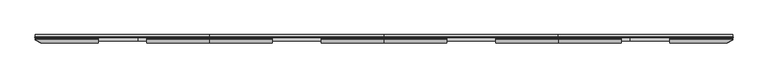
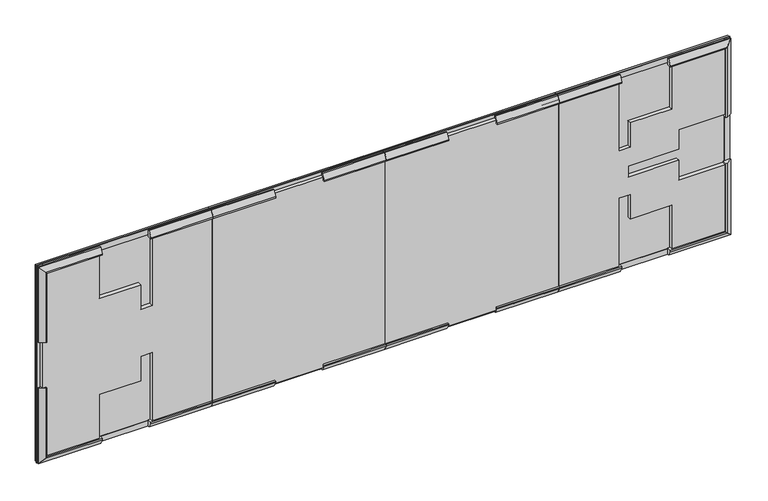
"""IFC4 building model written with IfcOpenShell, lengths in millimetres: proxy geometry, IMPRESS^TABLE 6_4 PC TOP PWR DRAWERS-TOP PARTS SOLID."""

import ifcopenshell
import ifcopenshell.guid

model = None  # the IFC model being written
_history = None  # IfcOwnerHistory: only IFC2X3 demands one
_inside = {}  # id of a spatial element -> (the spatial element, [elements in it])
_under = {}  # id of a project, library or spatial element -> (it, [spatial elements below it])
_declared = {}  # id of a project -> (the project, [libraries it declares])
_typed = {}  # id of a type object -> (the type object, [elements of that type])
_made_of = {}  # id of a material, layer set ... -> (it, [elements and type objects made of it])


def new_model(schema):
    """Start an empty IFC model of exactly this schema.

    Asked for "IFC4X3", IfcOpenShell would pick the latest addendum, in which some entities
    have other attributes; the version numbers below select the first issue.
    IFC2X3 requires an IfcOwnerHistory on every rooted entity: one is made here for all.
    """
    global model, _history
    if schema == "IFC4X3":
        model = ifcopenshell.file(schema_version=(4, 3, 0, 0))
    else:
        model = ifcopenshell.file(schema=schema)
    _inside.clear()
    _under.clear()
    _declared.clear()
    _typed.clear()
    _made_of.clear()
    _history = None
    if model.schema == "IFC2X3":
        org = make("IfcOrganization", Name="unknown")
        user = make(
            "IfcPersonAndOrganization",
            ThePerson=make("IfcPerson", FamilyName="unknown"),
            TheOrganization=org,
        )
        app = make(
            "IfcApplication",
            ApplicationDeveloper=org,
            Version="unknown",
            ApplicationFullName="unknown",
            ApplicationIdentifier="unknown",
        )
        _history = make(
            "IfcOwnerHistory",
            OwningUser=user,
            OwningApplication=app,
            ChangeAction="ADDED",
            CreationDate=0,
        )
    return model


def make(cls, **values):
    """One entity of the class cls with the attributes given. An attribute that is None is left unset."""
    return model.create_entity(
        cls, **{name: value for name, value in values.items() if value is not None}
    )


def rooted(cls, **values):
    """An entity with a GlobalId (a new one), such as an element, a storey or a relation."""
    return make(cls, GlobalId=ifcopenshell.guid.new(), OwnerHistory=_history, **values)


def si_unit(unit_type, name, prefix=None):
    """IfcSIUnit, for example si_unit("LENGTHUNIT", "METRE", prefix="MILLI")."""
    return make("IfcSIUnit", UnitType=unit_type, Prefix=prefix, Name=name)


def assignment(units):
    """IfcUnitAssignment: the units of a project."""
    return None if units is None else make("IfcUnitAssignment", Units=units)


def point(xyz):
    """IfcCartesianPoint."""
    return None if xyz is None else make("IfcCartesianPoint", Coordinates=xyz)


def direction(xyz):
    """IfcDirection."""
    return None if xyz is None else make("IfcDirection", DirectionRatios=xyz)


def frame(location, z_axis=None, x_axis=None):
    """IfcAxis2Placement3D, a coordinate frame: its origin and axes. An axis left out is left unset."""
    return make(
        "IfcAxis2Placement3D",
        Location=point(location),
        Axis=direction(z_axis),
        RefDirection=direction(x_axis),
    )


def origin():
    """The frame at (0, 0, 0) with its axes left unset."""
    return frame((0.0, 0.0, 0.0))


def place(relative_to, where):
    """IfcLocalPlacement: puts the frame where relative to a parent placement (None: the world)."""
    return make(
        "IfcLocalPlacement", PlacementRelTo=relative_to, RelativePlacement=where
    )


def context(
    kind, dimensions, precision=None, world=None, true_north=None, identifier=None
):
    """IfcGeometricRepresentationContext, for example the 3D "Model" context."""
    return make(
        "IfcGeometricRepresentationContext",
        ContextIdentifier=identifier,
        ContextType=kind,
        CoordinateSpaceDimension=dimensions,
        Precision=precision,
        WorldCoordinateSystem=world,
        TrueNorth=true_north,
    )


def project(units=None, contexts=None):
    """IfcProject with its units and contexts."""
    return rooted(
        "IfcProject",
        Name="project",
        RepresentationContexts=contexts,
        UnitsInContext=assignment(units),
    )


def spatial(cls, under=None, at=None, **own):
    """A site, building, storey or space (cls), placed at a placement, below another one or the project."""
    s = rooted(cls, ObjectPlacement=at, **own)
    if under is not None:
        _under.setdefault(under.id(), (under, []))[1].append(s)
    return s


def polyline(points):
    """IfcPolyline through the points."""
    return make("IfcPolyline", Points=[point(p) for p in points])


def outline(outer, holes=None, kind="AREA"):
    """IfcArbitraryClosedProfileDef: a profile drawn as a closed curve; with holes, ...WithVoids."""
    if holes is None:
        return make("IfcArbitraryClosedProfileDef", ProfileType=kind, OuterCurve=outer)
    return make(
        "IfcArbitraryProfileDefWithVoids",
        ProfileType=kind,
        OuterCurve=outer,
        InnerCurves=holes,
    )


def extrude(swept, where, along, depth):
    """IfcExtrudedAreaSolid: the profile swept, set in the frame where, extruded along a direction by depth."""
    return make(
        "IfcExtrudedAreaSolid",
        SweptArea=swept,
        Position=where,
        ExtrudedDirection=direction(along),
        Depth=depth,
    )


def faces_of(points, faces, orient=None, outer=None):
    """IfcFace entities. A face is a list of loops; a loop is a list of indices into points, from 0.

    orient and outer hold one flag for each loop. By default every Orientation is true, the
    first loop of a face is its IfcFaceOuterBound and the others are IfcFaceBound.
    """
    made = []
    for i, loops in enumerate(faces):
        bounds = []
        for j, loop in enumerate(loops):
            is_outer = j == 0 if outer is None else outer[i][j]
            bounds.append(
                make(
                    "IfcFaceOuterBound" if is_outer else "IfcFaceBound",
                    Bound=make("IfcPolyLoop", Polygon=[points[k] for k in loop]),
                    Orientation=True if orient is None else orient[i][j],
                )
            )
        made.append(make("IfcFace", Bounds=bounds))
    return made


def faceted_brep(points, faces, orient=None, outer=None, voids=None):
    """IfcFacetedBrep: a solid bounded by flat faces; with voids (closed shells), ...WithVoids."""
    shared = [point(p) for p in points]
    hull = make("IfcClosedShell", CfsFaces=faces_of(shared, faces, orient, outer))
    if voids is None:
        return make("IfcFacetedBrep", Outer=hull)
    return make(
        "IfcFacetedBrepWithVoids",
        Outer=hull,
        Voids=[
            make(cls, CfsFaces=faces_of(shared, fs, o, b)) for cls, fs, o, b in voids
        ],
    )


def shape(context_of_items, identifier, shape_type, items):
    """IfcShapeRepresentation: the items that make up one representation, for example the "Body"."""
    return make(
        "IfcShapeRepresentation",
        ContextOfItems=context_of_items,
        RepresentationIdentifier=identifier,
        RepresentationType=shape_type,
        Items=items,
    )


def source(mapping_origin, context_of_items, identifier, shape_type, items):
    """IfcRepresentationMap: a shape defined once, which mapped items show again and again."""
    return make(
        "IfcRepresentationMap",
        MappingOrigin=mapping_origin,
        MappedRepresentation=shape(context_of_items, identifier, shape_type, items),
    )


def transform(
    local_origin,
    x_axis=None,
    y_axis=None,
    z_axis=None,
    scale=None,
    scale2=None,
    scale3=None,
    uniform=True,
):
    """IfcCartesianTransformationOperator3D, or its non-uniform kind. x_axis, y_axis, z_axis: its Axis1, 2, 3."""
    if uniform:
        return make(
            "IfcCartesianTransformationOperator3D",
            Axis1=direction(x_axis),
            Axis2=direction(y_axis),
            LocalOrigin=point(local_origin),
            Scale=scale,
            Axis3=direction(z_axis),
        )
    return make(
        "IfcCartesianTransformationOperator3DnonUniform",
        Axis1=direction(x_axis),
        Axis2=direction(y_axis),
        LocalOrigin=point(local_origin),
        Scale=scale,
        Axis3=direction(z_axis),
        Scale2=scale2,
        Scale3=scale3,
    )


def mapped(mapping_source, mapping_target):
    """IfcMappedItem: shows the shape of a source again, moved by a transform."""
    return make(
        "IfcMappedItem", MappingSource=mapping_source, MappingTarget=mapping_target
    )


def made_of(thing, what):
    """Note that an element or type object is made of a material, layer set ...; save() writes the relation."""
    if what is not None:
        _made_of.setdefault(what.id(), (what, []))[1].append(thing)
    return thing


def element(
    cls,
    number,
    at=None,
    inside=None,
    cuts=None,
    type_object=None,
    material=None,
    context=None,
    identifier="Body",
    shape_type=None,
    held_by="IfcProductDefinitionShape",
    body=None,
    shapes=None,
    **own,
):
    """One element of the class cls, such as IfcWall. Its Tag is "e" and its number.

    at: its placement. inside: the storey or other place that contains it. cuts: it is an
    opening in that element (IfcRelVoidsElement). A single representation is given by context,
    identifier, shape_type and body (its items); several are given by shapes. held_by: the class
    of the entity that holds the representations. save() writes the other relations.
    """
    e = rooted(cls, Tag="e%d" % number, ObjectPlacement=at, **own)
    if body is not None:
        shapes = [shape(context, identifier, shape_type, body)]
    if shapes is not None:
        e.Representation = make(held_by, Representations=shapes)
    if inside is not None:
        _inside.setdefault(inside.id(), (inside, []))[1].append(e)
    if cuts is not None:
        rooted(
            "IfcRelVoidsElement", RelatingBuildingElement=cuts, RelatedOpeningElement=e
        )
    if type_object is not None:
        _typed.setdefault(type_object.id(), (type_object, []))[1].append(e)
    return made_of(e, material)


def aggregate(whole, parts):
    """IfcRelAggregates: a whole, such as a stair, and the parts it consists of."""
    return rooted("IfcRelAggregates", RelatingObject=whole, RelatedObjects=parts)


def save(model, path):
    """Write the relations noted so far, then the file.

    IfcRelAggregates (storeys below a building ...), IfcRelContainedInSpatialStructure (elements
    in a storey), IfcRelDefinesByType, IfcRelAssociatesMaterial and IfcRelDeclares: one each for
    every whole, place, type object, material and project.
    """
    for whole, parts in _under.values():
        aggregate(whole, parts)
    for where, things in _inside.values():
        rooted(
            "IfcRelContainedInSpatialStructure",
            RelatedElements=things,
            RelatingStructure=where,
        )
    for kind, things in _typed.values():
        rooted("IfcRelDefinesByType", RelatedObjects=things, RelatingType=kind)
    for what, things in _made_of.values():
        rooted("IfcRelAssociatesMaterial", RelatedObjects=things, RelatingMaterial=what)
    for by, libraries in _declared.values():
        rooted("IfcRelDeclares", RelatingContext=by, RelatedDefinitions=libraries)
    model.write(path)


def generic_models_7e3621ef(model_context):
    return source(origin(), model_context, "Body", "SolidModel", [
        extrude(outline(polyline([(3048.0, -38.1), (3048.0, 0.0), (4572.0, 0.0), (4572.0, -38.1), (3048.0, -38.1)])), frame((0.0, 0.0, -1800.225), z_axis=(0.0, 0.0, 1.0), x_axis=(1.0, 0.0, 0.0)), (0.0, 0.0, 1.0), 1771.65),
        extrude(outline(polyline([(4572.0, 0.0), (6061.075, 0.0), (6061.075, -6.35), (4572.0, -6.35), (4572.0, 0.0)])), frame((0.0, 0.0, -47.625), z_axis=(0.0, 0.0, 1.0), x_axis=(1.0, 0.0, 0.0)), (0.0, 0.0, 1.0), 50.8),
        extrude(outline(polyline([(-25.4, -1828.8), (-53.975, -1779.3066482), (-53.975, -1768.475), (-15.875, -1768.475), (-15.875, -1828.8), (-25.4, -1828.8)])), frame((1524.0, 0.0, 0.0), z_axis=(1.0, 0.0, 0.0), x_axis=(0.0, 1.0, 0.0)), (0.0, 0.0, 1.0), 548.48125),
        extrude(outline(polyline([(-25.4, -1828.8), (-53.975, -1779.3066482), (-53.975, -1768.475), (-15.875, -1768.475), (-15.875, -1828.8), (-25.4, -1828.8)])), frame((2499.51875, 0.0, 0.0), z_axis=(1.0, 0.0, 0.0), x_axis=(0.0, 1.0, 0.0)), (0.0, 0.0, 1.0), 548.48125),
        extrude(outline(polyline([(-53.975, -49.4933518), (-25.4, 0.0), (-15.875, 0.0), (-15.875, -60.325), (-53.975, -60.325), (-53.975, -49.4933518)])), frame((4023.51875, 0.0, 0.0), z_axis=(1.0, 0.0, 0.0), x_axis=(0.0, 1.0, 0.0)), (0.0, 0.0, 1.0), 548.48125),
        extrude(outline(polyline([(-53.975, -49.4933518), (-25.4, 0.0), (-15.875, 0.0), (-15.875, -60.325), (-53.975, -60.325), (-53.975, -49.4933518)])), frame((3048.0, 0.0, 0.0), z_axis=(1.0, 0.0, 0.0), x_axis=(0.0, 1.0, 0.0)), (0.0, 0.0, 1.0), 548.48125),
        extrude(outline(polyline([(6096.0, 0.0), (4572.0, 0.0), (4572.0, 19.05), (6096.0, 19.05), (6096.0, 0.0)])), frame((0.0, 0.0, -1828.8), z_axis=(0.0, 0.0, 1.0), x_axis=(1.0, 0.0, 0.0)), (0.0, 0.0, 1.0), 1828.8),
        extrude(outline(polyline([(47.625, 0.0), (47.625, -6.35), (-3.175, -6.35), (-3.175, 0.0), (47.625, 0.0)])), frame((0.0, 0.0, -1831.975), z_axis=(0.0, 0.0, 1.0), x_axis=(1.0, 0.0, 0.0)), (0.0, 0.0, 1.0), 1835.15),
        extrude(outline(polyline([(-25.4, -1828.8), (-53.975, -1779.3066482), (-53.975, -1768.475), (-15.875, -1768.475), (-15.875, -1828.8), (-25.4, -1828.8)])), frame((3048.0, 0.0, 0.0), z_axis=(1.0, 0.0, 0.0), x_axis=(0.0, 1.0, 0.0)), (0.0, 0.0, 1.0), 548.48125),
        extrude(outline(polyline([(-25.4, -1828.8), (-53.975, -1779.3066482), (-53.975, -1768.475), (-15.875, -1768.475), (-15.875, -1828.8), (-25.4, -1828.8)])), frame((4023.51875, 0.0, 0.0), z_axis=(1.0, 0.0, 0.0), x_axis=(0.0, 1.0, 0.0)), (0.0, 0.0, 1.0), 548.48125),
        extrude(outline(polyline([(4572.0, 0.0), (6061.075, 0.0), (6061.075, -6.35), (4572.0, -6.35), (4572.0, 0.0)])), frame((0.0, 0.0, -1831.975), z_axis=(0.0, 0.0, 1.0), x_axis=(1.0, 0.0, 0.0)), (0.0, 0.0, 1.0), 50.8),
        extrude(outline(polyline([(1524.0, 0.0), (3048.0, 0.0), (3048.0, -38.1), (1524.0, -38.1), (1524.0, 0.0)])), frame((0.0, 0.0, -1800.225), z_axis=(0.0, 0.0, 1.0), x_axis=(1.0, 0.0, 0.0)), (0.0, 0.0, 1.0), 1771.65),
        faceted_brep([(49.4933518, -53.975, -700.88125), (0.0, -25.4, -700.88125), (0.0, -15.875, -700.88125), (60.325, -15.875, -700.88125), (60.325, -53.975, -700.88125), (49.4933518, -53.975, -49.4933518), (0.0, -25.4, 0.0), (60.325, -53.975, -60.325), (60.325, -15.875, -60.325), (0.0, -15.875, 0.0)], [[[0, 1, 2, 3, 4]], [[1, 0, 5, 6]], [[0, 4, 7, 5]], [[3, 8, 7, 4]], [[2, 1, 6, 9]], [[6, 5, 7, 8, 9]], [[3, 2, 9, 8]]]),
        faceted_brep([(49.4933518, -53.975, -1127.91875), (0.0, -25.4, -1127.91875), (0.0, -25.4, -1828.8), (49.4933518, -53.975, -1779.3066482), (60.325, -53.975, -1127.91875), (60.325, -53.975, -1768.475), (60.325, -15.875, -1768.475), (60.325, -15.875, -1127.91875), (0.0, -15.875, -1127.91875), (0.0, -15.875, -1828.8)], [[[0, 1, 2, 3]], [[4, 0, 3, 5]], [[4, 5, 6, 7]], [[1, 8, 9, 2]], [[8, 7, 6, 9]], [[3, 2, 9, 6, 5]], [[1, 0, 4, 7, 8]]]),
        extrude(outline(polyline([(34.925, 0.0), (1524.0, 0.0), (1524.0, -6.35), (34.925, -6.35), (34.925, 0.0)])), frame((0.0, 0.0, -1831.975), z_axis=(0.0, 0.0, 1.0), x_axis=(1.0, 0.0, 0.0)), (0.0, 0.0, 1.0), 50.8),
        extrude(outline(polyline([(3048.0, 0.0), (4572.0, 0.0), (4572.0, -6.35), (3048.0, -6.35), (3048.0, 0.0)])), frame((0.0, 0.0, -1831.975), z_axis=(0.0, 0.0, 1.0), x_axis=(1.0, 0.0, 0.0)), (0.0, 0.0, 1.0), 50.8),
        faceted_brep([(28.575, 0.0, -28.575), (1524.0, 0.0, -28.575), (1524.0, 0.0, -1781.175), (528.6375, 0.0, -1781.175), (528.6375, 0.0, -1800.225), (28.575, 0.0, -1800.225), (995.3625, -3.175, -28.575), (995.3625, -38.1, -28.575), (1524.0, -38.1, -28.575), (28.575, -38.1, -28.575), (528.6375, -38.1, -28.575), (528.6375, -3.175, -28.575), (528.6375, -38.1, -1800.225), (28.575, -38.1, -1800.225), (528.6375, -38.1, -1362.075), (893.7625, -38.1, -1362.075), (893.7625, -38.1, -1133.475), (995.3625, -38.1, -1133.475), (995.3625, -38.1, -1800.225), (1524.0, -38.1, -1800.225), (995.3625, -38.1, -695.325), (893.7625, -38.1, -695.325), (893.7625, -38.1, -466.725), (528.6375, -38.1, -466.725), (893.7625, -3.175, -1133.475), (995.3625, -3.175, -1133.475), (893.7625, -3.175, -1362.075), (893.7625, -3.175, -695.325), (893.7625, -3.175, -466.725), (995.3625, -3.175, -695.325), (528.6375, -3.175, -466.725), (528.6375, -3.175, -1781.175), (995.3625, -3.175, -1781.175), (528.6375, -3.175, -1362.075), (1524.0, -6.35, -1800.225), (1524.0, -6.35, -1781.175), (995.3625, -6.35, -1781.175), (995.3625, -6.35, -1800.225)], [[[0, 1, 2, 3, 4, 5]], [[6, 7, 8, 1, 0, 9, 10, 11]], [[4, 12, 13, 5]], [[13, 9, 0, 5]], [[9, 13, 12, 14, 15, 16, 17, 18, 19, 8, 7, 20, 21, 22, 23, 10]], [[24, 25, 17, 16]], [[26, 24, 16, 15]], [[27, 28, 22, 21]], [[29, 27, 21, 20]], [[22, 28, 30, 23]], [[11, 30, 28, 27, 29, 6]], [[31, 32, 25, 24, 26, 33]], [[1, 8, 19, 34, 35, 2]], [[2, 35, 36, 32, 31, 3]], [[18, 37, 34, 19]], [[37, 36, 35, 34]], [[26, 15, 14, 33]], [[18, 17, 25, 32, 36, 37]], [[14, 12, 4, 3, 31, 33]], [[20, 7, 6, 29]], [[10, 23, 30, 11]]]),
        faceted_brep([(5547.51875, -53.975, -49.4933518), (5547.51875, -25.4, 0.0), (5547.51875, -15.875, 0.0), (5547.51875, -15.875, -60.325), (5547.51875, -53.975, -60.325), (6096.0, -25.4, 0.0), (6096.0, -15.875, 0.0), (6046.5066482, -53.975, -49.4933518), (6035.675, -53.975, -60.325), (6035.675, -15.875, -60.325)], [[[0, 1, 2, 3, 4]], [[2, 1, 5, 6]], [[1, 0, 7, 5]], [[0, 4, 8, 7]], [[3, 9, 8, 4]], [[5, 7, 8, 9, 6]], [[3, 2, 6, 9]]]),
        extrude(outline(polyline([(-53.975, -49.4933518), (-25.4, 0.0), (-15.875, 0.0), (-15.875, -60.325), (-53.975, -60.325), (-53.975, -49.4933518)])), frame((4572.0, 0.0, 0.0), z_axis=(1.0, 0.0, 0.0), x_axis=(0.0, 1.0, 0.0)), (0.0, 0.0, 1.0), 548.48125),
        extrude(outline(polyline([(3048.0, 0.0), (4572.0, 0.0), (4572.0, -6.35), (3048.0, -6.35), (3048.0, 0.0)])), frame((0.0, 0.0, -47.625), z_axis=(0.0, 0.0, 1.0), x_axis=(1.0, 0.0, 0.0)), (0.0, 0.0, 1.0), 50.8),
        faceted_brep([(6046.5066482, -53.975, -1127.91875), (6096.0, -25.4, -1127.91875), (6096.0, -15.875, -1127.91875), (6035.675, -15.875, -1127.91875), (6035.675, -53.975, -1127.91875), (6035.675, -15.875, -1768.475), (6035.675, -53.975, -1768.475), (6096.0, -15.875, -1828.8), (6046.5066482, -53.975, -1779.3066482), (6096.0, -25.4, -1828.8)], [[[0, 1, 2, 3, 4]], [[3, 5, 6, 4]], [[3, 2, 7, 5]], [[0, 4, 6, 8]], [[2, 1, 9, 7]], [[1, 0, 8, 9]], [[9, 8, 6, 5, 7]]]),
        faceted_brep([(6035.675, -53.975, -700.88125), (6035.675, -53.975, -60.325), (6035.675, -15.875, -60.325), (6035.675, -15.875, -700.88125), (6096.0, -15.875, -700.88125), (6096.0, -15.875, 0.0), (6046.5066482, -53.975, -700.88125), (6046.5066482, -53.975, -49.4933518), (6096.0, -25.4, -700.88125), (6096.0, -25.4, 0.0)], [[[0, 1, 2, 3]], [[4, 3, 2, 5]], [[0, 6, 7, 1]], [[8, 4, 5, 9]], [[6, 8, 9, 7]], [[7, 9, 5, 2, 1]], [[8, 6, 0, 3, 4]]]),
        faceted_brep([(4572.0, 0.0, -28.575), (6067.425, 0.0, -28.575), (6067.425, 0.0, -1800.225), (5567.3625, 0.0, -1800.225), (5567.3625, 0.0, -1781.175), (4572.0, 0.0, -1781.175), (5100.6375, -3.175, -1781.175), (5100.6375, -6.35, -1781.175), (4572.0, -6.35, -1781.175), (5567.3625, -3.175, -1781.175), (5567.3625, -38.1, -28.575), (6067.425, -38.1, -28.575), (4572.0, -38.1, -28.575), (5100.6375, -38.1, -28.575), (5100.6375, -3.175, -28.575), (5567.3625, -3.175, -28.575), (6067.425, -38.1, -1147.7625), (6067.425, -38.1, -1800.225), (6067.425, -38.1, -681.0375), (6067.425, -3.175, -681.0375), (6067.425, -3.175, -1147.7625), (5567.3625, -38.1, -1800.225), (5184.775, -38.1, -863.6), (5629.275, -38.1, -863.6), (5629.275, -38.1, -681.0375), (5567.3625, -38.1, -466.725), (5202.2375, -38.1, -466.725), (5202.2375, -38.1, -695.325), (5100.6375, -38.1, -695.325), (4572.0, -38.1, -1800.225), (5100.6375, -38.1, -1800.225), (5100.6375, -38.1, -1133.475), (5202.2375, -38.1, -1133.475), (5202.2375, -38.1, -1362.075), (5567.3625, -38.1, -1362.075), (5629.275, -38.1, -1147.7625), (5629.275, -38.1, -965.2), (5184.775, -38.1, -965.2), (4572.0, -6.35, -1800.225), (5100.6375, -6.35, -1800.225), (5184.775, -3.175, -863.6), (5629.275, -3.175, -863.6), (5629.275, -3.175, -965.2), (5184.775, -3.175, -965.2), (5100.6375, -3.175, -1133.475), (5202.2375, -3.175, -1133.475), (5202.2375, -3.175, -1362.075), (5202.2375, -3.175, -466.725), (5202.2375, -3.175, -695.325), (5100.6375, -3.175, -695.325), (5629.275, -3.175, -1147.7625), (5567.3625, -3.175, -1362.075), (5567.3625, -3.175, -466.725), (5629.275, -3.175, -681.0375)], [[[0, 1, 2, 3, 4, 5]], [[6, 7, 8, 5, 4, 9]], [[10, 11, 1, 0, 12, 13, 14, 15]], [[16, 17, 2, 1, 11, 18, 19, 20]], [[17, 21, 3, 2]], [[22, 23, 24, 18, 11, 10, 25, 26, 27, 28, 13, 12, 29, 30, 31, 32, 33, 34, 21, 17, 16, 35, 36, 37]], [[30, 29, 38, 39]], [[23, 22, 40, 41]], [[37, 36, 42, 43]], [[43, 40, 22, 37]], [[44, 45, 32, 31]], [[45, 46, 33, 32]], [[47, 48, 27, 26]], [[48, 49, 28, 27]], [[42, 36, 35, 50]], [[33, 46, 51, 34]], [[14, 49, 48, 47, 52, 15]], [[6, 9, 51, 46, 45, 44]], [[41, 40, 43, 42, 50, 20, 19, 53]], [[5, 8, 38, 29, 12, 0]], [[7, 39, 38, 8]], [[47, 26, 25, 52]], [[13, 28, 49, 14]], [[25, 10, 15, 52]], [[21, 34, 51, 9, 4, 3]], [[31, 30, 39, 7, 6, 44]], [[35, 16, 20, 50]], [[23, 41, 53, 24]], [[18, 24, 53, 19]]]),
        extrude(outline(polyline([(6048.375, 0.0), (6099.175, 0.0), (6099.175, -6.35), (6048.375, -6.35), (6048.375, 0.0)])), frame((0.0, 0.0, -1831.975), z_axis=(0.0, 0.0, 1.0), x_axis=(1.0, 0.0, 0.0)), (0.0, 0.0, 1.0), 1835.15),
        faceted_brep([(548.48125, -53.975, -1779.3066482), (548.48125, -25.4, -1828.8), (548.48125, -15.875, -1828.8), (548.48125, -15.875, -1768.475), (548.48125, -53.975, -1768.475), (49.4933518, -53.975, -1779.3066482), (0.0, -25.4, -1828.8), (60.325, -53.975, -1768.475), (60.325, -15.875, -1768.475), (0.0, -15.875, -1828.8)], [[[0, 1, 2, 3, 4]], [[1, 0, 5, 6]], [[0, 4, 7, 5]], [[6, 5, 7, 8, 9]], [[3, 2, 9, 8]], [[3, 8, 7, 4]], [[2, 1, 6, 9]]]),
        extrude(outline(polyline([(-25.4, -1828.8), (-53.975, -1779.3066482), (-53.975, -1768.475), (-15.875, -1768.475), (-15.875, -1828.8), (-25.4, -1828.8)])), frame((975.51875, 0.0, 0.0), z_axis=(1.0, 0.0, 0.0), x_axis=(0.0, 1.0, 0.0)), (0.0, 0.0, 1.0), 548.48125),
        extrude(outline(polyline([(-53.975, -49.4933518), (-25.4, 0.0), (-15.875, 0.0), (-15.875, -60.325), (-53.975, -60.325), (-53.975, -49.4933518)])), frame((2499.51875, 0.0, 0.0), z_axis=(1.0, 0.0, 0.0), x_axis=(0.0, 1.0, 0.0)), (0.0, 0.0, 1.0), 548.48125),
        extrude(outline(polyline([(-53.975, -49.4933518), (-25.4, 0.0), (-15.875, 0.0), (-15.875, -60.325), (-53.975, -60.325), (-53.975, -49.4933518)])), frame((1524.0, 0.0, 0.0), z_axis=(1.0, 0.0, 0.0), x_axis=(0.0, 1.0, 0.0)), (0.0, 0.0, 1.0), 548.48125),
        extrude(outline(polyline([(-53.975, -49.4933518), (-25.4, 0.0), (-15.875, 0.0), (-15.875, -60.325), (-53.975, -60.325), (-53.975, -49.4933518)])), frame((975.51875, 0.0, 0.0), z_axis=(1.0, 0.0, 0.0), x_axis=(0.0, 1.0, 0.0)), (0.0, 0.0, 1.0), 548.48125),
        faceted_brep([(548.48125, -53.975, -49.4933518), (548.48125, -25.4, 0.0), (0.0, -25.4, 0.0), (49.4933518, -53.975, -49.4933518), (548.48125, -53.975, -60.325), (60.325, -53.975, -60.325), (548.48125, -15.875, 0.0), (0.0, -15.875, 0.0), (60.325, -15.875, -60.325), (548.48125, -15.875, -60.325)], [[[0, 1, 2, 3]], [[4, 0, 3, 5]], [[1, 6, 7, 2]], [[4, 5, 8, 9]], [[6, 9, 8, 7]], [[3, 2, 7, 8, 5]], [[1, 0, 4, 9, 6]]]),
        extrude(outline(polyline([(4572.0, 0.0), (3048.0, 0.0), (3048.0, 19.05), (4572.0, 19.05), (4572.0, 0.0)])), frame((0.0, 0.0, -1828.8), z_axis=(0.0, 0.0, 1.0), x_axis=(1.0, 0.0, 0.0)), (0.0, 0.0, 1.0), 1828.8),
        extrude(outline(polyline([(3048.0, 0.0), (1524.0, 0.0), (1524.0, 19.05), (3048.0, 19.05), (3048.0, 0.0)])), frame((0.0, 0.0, -1828.8), z_axis=(0.0, 0.0, 1.0), x_axis=(1.0, 0.0, 0.0)), (0.0, 0.0, 1.0), 1828.8),
        extrude(outline(polyline([(1524.0, 0.0), (3048.0, 0.0), (3048.0, -6.35), (1524.0, -6.35), (1524.0, 0.0)])), frame((0.0, 0.0, -1831.975), z_axis=(0.0, 0.0, 1.0), x_axis=(1.0, 0.0, 0.0)), (0.0, 0.0, 1.0), 50.8),
        extrude(outline(polyline([(-25.4, -1828.8), (-53.975, -1779.3066482), (-53.975, -1768.475), (-15.875, -1768.475), (-15.875, -1828.8), (-25.4, -1828.8)])), frame((4572.0, 0.0, 0.0), z_axis=(1.0, 0.0, 0.0), x_axis=(0.0, 1.0, 0.0)), (0.0, 0.0, 1.0), 548.48125),
        faceted_brep([(5547.51875, -15.875, -1828.8), (5547.51875, -15.875, -1768.475), (6035.675, -15.875, -1768.475), (6096.0, -15.875, -1828.8), (5547.51875, -53.975, -1768.475), (6035.675, -53.975, -1768.475), (5547.51875, -53.975, -1779.3066482), (6046.5066482, -53.975, -1779.3066482), (5547.51875, -25.4, -1828.8), (6096.0, -25.4, -1828.8)], [[[0, 1, 2, 3]], [[4, 5, 2, 1]], [[4, 6, 7, 5]], [[8, 0, 3, 9]], [[6, 8, 9, 7]], [[7, 9, 3, 2, 5]], [[8, 6, 4, 1, 0]]]),
        extrude(outline(polyline([(1524.0, 0.0), (3048.0, 0.0), (3048.0, -6.35), (1524.0, -6.35), (1524.0, 0.0)])), frame((0.0, 0.0, -47.625), z_axis=(0.0, 0.0, 1.0), x_axis=(1.0, 0.0, 0.0)), (0.0, 0.0, 1.0), 50.8),
        extrude(outline(polyline([(34.925, 0.0), (1524.0, 0.0), (1524.0, -6.35), (34.925, -6.35), (34.925, 0.0)])), frame((0.0, 0.0, -47.625), z_axis=(0.0, 0.0, 1.0), x_axis=(1.0, 0.0, 0.0)), (0.0, 0.0, 1.0), 50.8),
        extrude(outline(polyline([(1524.0, 0.0), (0.0, 0.0), (0.0, 19.05), (1524.0, 19.05), (1524.0, 0.0)])), frame((0.0, 0.0, -1828.8), z_axis=(0.0, 0.0, 1.0), x_axis=(1.0, 0.0, 0.0)), (0.0, 0.0, 1.0), 1828.8),
    ])


if __name__ == "__main__":
    model = new_model("IFC4")
    model_context = context("Model", 3, world=origin())
    ifc_project = project(units=[si_unit("LENGTHUNIT", "METRE", prefix="MILLI")], contexts=[model_context])
    site = spatial("IfcSite", under=ifc_project)
    building = spatial("IfcBuilding", under=site)
    placement = place(None, origin())
    generic_models_shape = generic_models_7e3621ef(model_context)
    element("IfcBuildingElementProxy", 1, Name="IMPRESS^TABLE 6_4 PC TOP PWR DRAWERS-TOP PARTS SOLID", ObjectType="IMPRESS^TABLE 6_4 PC TOP PWR DRAWERS-TOP PARTS SOLID", at=placement, inside=building, context=model_context, shape_type="MappedRepresentation", body=[
        mapped(generic_models_shape, transform((0.0, 0.0, 0.0), x_axis=(1.0, 0.0, 0.0), y_axis=(0.0, 1.0, 0.0), z_axis=(0.0, 0.0, 1.0))),
    ])
    save(model, "model.ifc")
